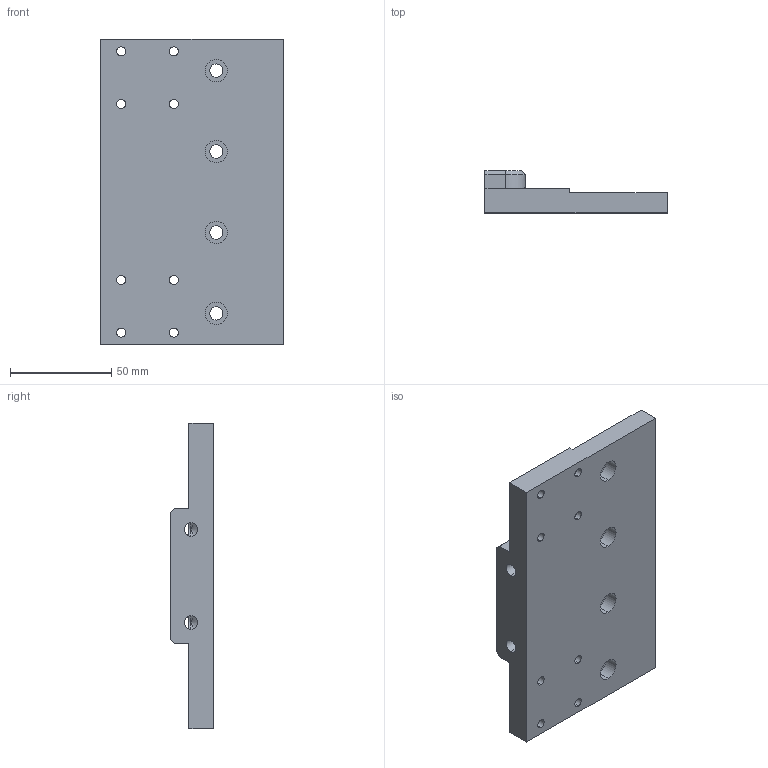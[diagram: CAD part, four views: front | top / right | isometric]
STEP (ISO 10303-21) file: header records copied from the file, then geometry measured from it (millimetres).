
FILE_DESCRIPTION (( 'STEP AP214' ), '1' );
FILE_NAME ('GZ30.09_V1压管滑移板.STEP', '2021-06-04T05:49:59', ( '微软中国' ), ( 'Microsoft' ), 'SwSTEP 2.0', 'SolidWorks 2017', '' );
FILE_SCHEMA (( 'AUTOMOTIVE_DESIGN' ));
Length unit declared in the file: millimetre
Products named in the file (1): GZ30.09_V1揤奪賑痄啣
Bounding box: 90 x 21 x 151 mm (x, y, z)
Volume: 152633.1 mm3; surface area: 37602.6 mm2
Topology: 1 solids, 1 shells, 95 faces, 241 edges, 152 vertices
Faces by surface type: cylinder 58, plane 27, cone 10
Entity records: 3073 total; most frequent: DIRECTION 543, CARTESIAN_POINT 535, ORIENTED_EDGE 466, EDGE_CURVE 233, AXIS2_PLACEMENT_3D 218, VERTEX_POINT 152, EDGE_LOOP 135, CIRCLE 122
